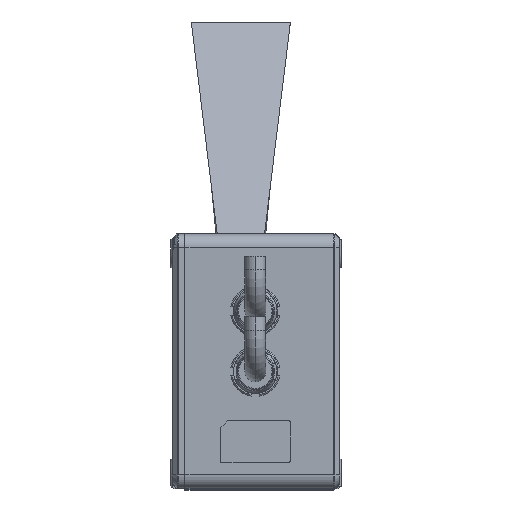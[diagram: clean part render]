
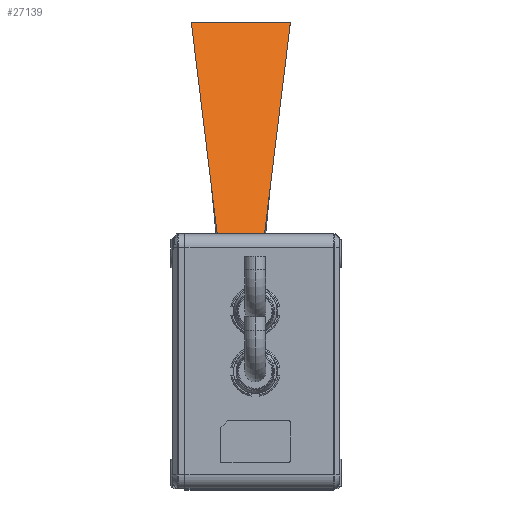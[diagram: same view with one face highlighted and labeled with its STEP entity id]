
A CAD part, left-side view. The second image highlights one B-rep face of the part: STEP entity #27139.
In plain terms, the highlighted planar face has unit normal (0.871, 0, -0.491).
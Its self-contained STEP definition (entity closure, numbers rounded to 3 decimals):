
#26980=DIRECTION('',(0.488,0.106,0.866));
#26981=VECTOR('',#26980,95.647);
#26982=CARTESIAN_POINT('',(-6.842,-8.145,36.149));
#26983=LINE('',#26982,#26981);
#27012=DIRECTION('',(0.,-1.,0.));
#27013=VECTOR('',#27012,15.71);
#27014=CARTESIAN_POINT('',(-6.842,-8.145,36.149));
#27015=LINE('',#27014,#27013);
#27016=DIRECTION('',(0.488,-0.106,0.866));
#27017=VECTOR('',#27016,95.647);
#27018=CARTESIAN_POINT('',(-6.842,-23.855,36.149));
#27019=LINE('',#27018,#27017);
#27020=DIRECTION('',(0.,1.,0.));
#27021=VECTOR('',#27020,36.);
#27022=CARTESIAN_POINT('',(39.86,-34.,119.));
#27023=LINE('',#27022,#27021);
#27028=CARTESIAN_POINT('',(-6.842,-8.145,36.149));
#27029=CARTESIAN_POINT('',(39.86,2.,119.));
#27030=VERTEX_POINT('',#27028);
#27031=VERTEX_POINT('',#27029);
#27032=CARTESIAN_POINT('',(-6.842,-23.855,36.149));
#27033=CARTESIAN_POINT('',(39.86,-34.,119.));
#27034=VERTEX_POINT('',#27032);
#27035=VERTEX_POINT('',#27033);
#27126=CARTESIAN_POINT('',(16.509,-16.,77.575));
#27127=DIRECTION('',(0.871,0.,-0.491));
#27128=DIRECTION('',(0.,-1.,0.));
#27129=AXIS2_PLACEMENT_3D('',#27126,#27127,#27128);
#27130=PLANE('',#27129);
#27131=ORIENTED_EDGE('',*,*,#27069,.F.);
#27133=ORIENTED_EDGE('',*,*,#27132,.T.);
#27134=ORIENTED_EDGE('',*,*,#27116,.T.);
#27136=ORIENTED_EDGE('',*,*,#27135,.T.);
#27137=EDGE_LOOP('',(#27131,#27133,#27134,#27136));
#27138=FACE_OUTER_BOUND('',#27137,.F.);
#27069=EDGE_CURVE('',#27030,#27031,#26983,.T.);
#27116=EDGE_CURVE('',#27034,#27035,#27019,.T.);
#27132=EDGE_CURVE('',#27030,#27034,#27015,.T.);
#27135=EDGE_CURVE('',#27035,#27031,#27023,.T.);
#27139=ADVANCED_FACE('',(#27138),#27130,.T.);
